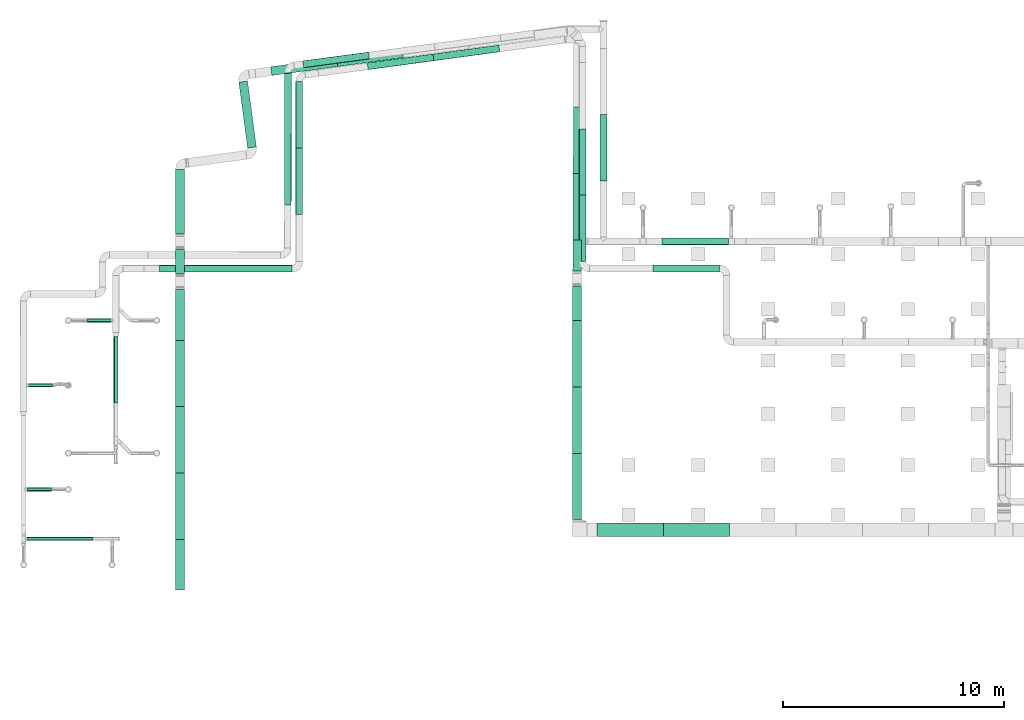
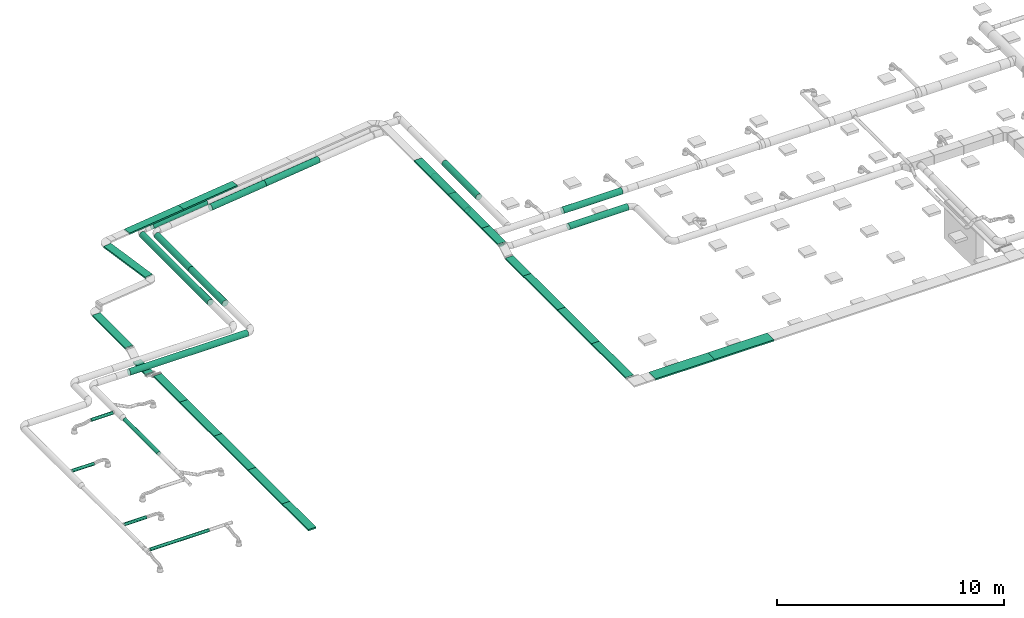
# One storey, part 1 of 119: 19 distribution elements, 17 flow segments.
"""IFC2X3 building model written with IfcOpenShell, lengths in metres."""

from ifc_helpers import new_model, si_unit, direction, frame, frame_2d, origin, place, context, subcontext, project, spatial, rectangle, extrude, open_shell, surface_model, source, transform, mapped, element, save


model = new_model("IFC2X3")

# Units and contexts
model_context = context("Model", 3, precision=1e-05, world=origin(), true_north=direction((-0.4480736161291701, 0.8939966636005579)))
body_context = subcontext(model_context, "Body", "Model", "MODEL_VIEW")
ifc_project = project(units=[si_unit("LENGTHUNIT", "METRE"), si_unit("AREAUNIT", "SQUARE_METRE"), si_unit("VOLUMEUNIT", "CUBIC_METRE"), si_unit("PLANEANGLEUNIT", "RADIAN"), si_unit("THERMODYNAMICTEMPERATUREUNIT", "KELVIN"), si_unit("MASSUNIT", "GRAM", prefix="KILO"), si_unit("TIMEUNIT", "SECOND")], contexts=[model_context])

# Site, building, storey
site_placement = place(None, origin())
site = spatial("IfcSite", under=ifc_project, at=site_placement, Name="Site 1", CompositionType="ELEMENT")
building_placement = place(site_placement, origin())
building = spatial("IfcBuilding", under=site, at=building_placement, Name="Undefined", CompositionType="ELEMENT")
storey_placement = place(building_placement, frame((0.0, 0.0, 5.4)))
storey = spatial("IfcBuildingStorey", under=building, at=storey_placement, Name="R+1", CompositionType="ELEMENT", Elevation=5.4)

# Flow segments
shared_shape_1 = source(origin(), body_context, "Body", "SurfaceModel", [
    surface_model("IfcFaceBasedSurfaceModel", [(0.0, 0.04111575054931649, 0.0), (0.0, 0.0, 0.0), (3.0, 0.0, 0.0), (3.0, 0.04111575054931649, 0.0), (0.0, -0.03971476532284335, -0.010641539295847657), (3.0, -0.03971476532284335, -0.010641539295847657), (0.0, -0.0753220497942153, -0.0311994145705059), (3.0, -0.0753220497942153, -0.0311994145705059), (0.0, -0.10439527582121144, -0.060272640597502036), (3.0, -0.10439527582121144, -0.060272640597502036), (0.0, -0.12495315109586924, -0.09587992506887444), (3.0, -0.12495315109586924, -0.09587992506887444), (0.0, -0.13559469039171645, -0.13559469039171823), (3.0, -0.13559469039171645, -0.13559469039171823), (0.0, -0.135594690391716, -0.17671044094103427), (3.0, -0.135594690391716, -0.17671044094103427), (0.0, -0.1249531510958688, -0.21642520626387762), (3.0, -0.1249531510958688, -0.21642520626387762), (0.0, -0.10439527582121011, -0.2520324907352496), (3.0, -0.10439527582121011, -0.2520324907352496), (0.0, -0.07532204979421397, -0.2811057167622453), (3.0, -0.07532204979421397, -0.2811057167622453), (0.0, -0.039714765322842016, -0.3016635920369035), (3.0, -0.039714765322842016, -0.3016635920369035), (0.0, 1.776356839e-15, -0.3123051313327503), (3.0, 1.776356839e-15, -0.3123051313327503), (0.0, 0.041115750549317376, -0.31230513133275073), (3.0, 0.041115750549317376, -0.31230513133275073), (0.0, 0.08083051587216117, -0.30166359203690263), (3.0, 0.08083051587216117, -0.30166359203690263), (0.0, 0.11643780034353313, -0.28110571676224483), (3.0, 0.11643780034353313, -0.28110571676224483), (0.0, 0.14551102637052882, -0.25203249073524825), (3.0, 0.14551102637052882, -0.25203249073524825), (0.0, 0.16606890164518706, -0.2164252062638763), (3.0, 0.16606890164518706, -0.2164252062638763), (0.0, 0.17671044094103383, -0.1767104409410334), (3.0, 0.17671044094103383, -0.1767104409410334), (0.0, 0.17671044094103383, -0.1355946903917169), (3.0, 0.17671044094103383, -0.1355946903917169), (0.0, 0.16606890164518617, -0.09587992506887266), (3.0, 0.16606890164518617, -0.09587992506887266), (0.0, 0.14551102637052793, -0.06027264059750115), (3.0, 0.14551102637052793, -0.06027264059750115), (0.0, 0.1164378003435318, -0.031199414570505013), (3.0, 0.1164378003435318, -0.031199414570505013), (0.0, 0.08083051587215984, -0.010641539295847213), (3.0, 0.08083051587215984, -0.010641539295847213)], [open_shell([[[0, 1, 2, 3]], [[1, 4, 5, 2]], [[4, 6, 7, 5]], [[6, 8, 9, 7]], [[8, 10, 11, 9]], [[10, 12, 13, 11]], [[12, 14, 15, 13]], [[14, 16, 17, 15]], [[16, 18, 19, 17]], [[18, 20, 21, 19]], [[20, 22, 23, 21]], [[22, 24, 25, 23]], [[24, 26, 27, 25]], [[26, 28, 29, 27]], [[28, 30, 31, 29]], [[30, 32, 33, 31]], [[32, 34, 35, 33]], [[34, 36, 37, 35]], [[36, 38, 39, 37]], [[38, 40, 41, 39]], [[40, 42, 43, 41]], [[42, 44, 45, 43]], [[44, 46, 47, 45]], [[46, 0, 3, 47]]])]),
])
flow_segment_1_placement = place(storey_placement, origin())
element("IfcFlowSegment", 1, at=flow_segment_1_placement, inside=storey, Name="Tube", ObjectType="Tube", context=body_context, shape_type="MappedRepresentation", body=[
    mapped(shared_shape_1, transform((34.163289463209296, 20.54514033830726, 2.902133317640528), x_axis=(-1.0, 0.0, 0.0), y_axis=(7.266545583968e-12, -0.9914448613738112, 0.13052619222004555), z_axis=(0.0, 0.13052619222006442, 0.9914448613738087))),
])
flow_segment_2_placement = place(storey_placement, origin())
element("IfcFlowSegment", 2, at=flow_segment_2_placement, inside=storey, Name="Tube", ObjectType="Tube", context=body_context, shape_type="MappedRepresentation", body=[
    mapped(shared_shape_1, transform((17.89738901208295, 28.94529813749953, 2.902133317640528), x_axis=(-0.9912155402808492, -0.13225639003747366, 0.0), y_axis=(0.13112491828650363, -0.9827355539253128, 0.13052619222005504), z_axis=(-0.017262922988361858, 0.12937959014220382, 0.99144486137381))),
])
flow_segment_3_placement = place(storey_placement, origin())
element("IfcFlowSegment", 3, at=flow_segment_3_placement, inside=storey, Name="Tube", ObjectType="Tube", context=body_context, shape_type="MappedRepresentation", body=[
    mapped(shared_shape_1, transform((28.544597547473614, 23.232500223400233, 2.902133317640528), x_axis=(0.0, 1.0, 0.0), y_axis=(-0.9914448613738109, 0.0, 0.1305261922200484), z_axis=(0.1305261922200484, 0.0, 0.9914448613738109))),
])
flow_segment_4_placement = place(storey_placement, origin())
element("IfcFlowSegment", 4, at=flow_segment_4_placement, inside=storey, Name="Tube", ObjectType="Tube", context=body_context, shape_type="MappedRepresentation", body=[
    mapped(shared_shape_1, transform((33.7562773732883, 19.317394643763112, 2.9271333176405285), x_axis=(-1.0, 0.0, 0.0), y_axis=(7.266545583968e-12, -0.9914448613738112, 0.13052619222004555), z_axis=(0.0, 0.13052619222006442, 0.9914448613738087))),
])
flow_segment_5_placement = place(storey_placement, origin())
element("IfcFlowSegment", 5, at=flow_segment_5_placement, inside=storey, Name="Tube", ObjectType="Tube", context=body_context, shape_type="MappedRepresentation", body=[
    mapped(shared_shape_1, transform((27.60605237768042, 19.591630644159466, 2.9271333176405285), x_axis=(0.0, 1.0, 0.0), y_axis=(-0.9914448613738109, 0.0, 0.1305261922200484), z_axis=(0.1305261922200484, 0.0, 0.9914448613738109))),
])
flow_segment_6_placement = place(storey_placement, origin())
element("IfcFlowSegment", 6, at=flow_segment_6_placement, inside=storey, Name="Tube", ObjectType="Tube", context=body_context, shape_type="MappedRepresentation", body=[
    mapped(shared_shape_1, transform((27.60605237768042, 22.591630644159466, 2.9271333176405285), x_axis=(0.0, 1.0, 0.0), y_axis=(-0.9914448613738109, 0.0, 0.1305261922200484), z_axis=(0.1305261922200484, 0.0, 0.9914448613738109))),
])
flow_segment_7_placement = place(storey_placement, origin())
element("IfcFlowSegment", 7, at=flow_segment_7_placement, inside=storey, Name="Tube", ObjectType="Tube", context=body_context, shape_type="MappedRepresentation", body=[
    mapped(shared_shape_1, transform((23.788335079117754, 29.262743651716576, 2.9271333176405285), x_axis=(-0.9909831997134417, -0.13398618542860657, 0.0), y_axis=(0.13283991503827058, -0.9825052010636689, 0.13052619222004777), z_axis=(-0.017488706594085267, 0.12934926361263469, 0.991444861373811))),
])
flow_segment_8_placement = place(storey_placement, origin())
element("IfcFlowSegment", 8, at=flow_segment_8_placement, inside=storey, Name="Tube", ObjectType="Tube", context=body_context, shape_type="MappedRepresentation", body=[
    mapped(shared_shape_1, transform((20.815385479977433, 28.86078509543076, 2.9271333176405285), x_axis=(-0.9909831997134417, -0.13398618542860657, 0.0), y_axis=(0.13283991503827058, -0.9825052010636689, 0.13052619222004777), z_axis=(-0.017488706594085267, 0.12934926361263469, 0.991444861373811))),
])
flow_segment_9_placement = place(storey_placement, origin())
element("IfcFlowSegment", 9, at=flow_segment_9_placement, inside=storey, Name="Tube", ObjectType="Tube", context=body_context, shape_type="MappedRepresentation", body=[
    mapped(shared_shape_1, transform((14.709022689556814, 27.724272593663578, 2.9271333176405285), x_axis=(0.0, -1.0, 0.0), y_axis=(0.9914448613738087, 0.0, 0.13052619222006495), z_axis=(-0.13052619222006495, 0.0, 0.9914448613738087))),
])
flow_segment_10_placement = place(storey_placement, origin())
element("IfcFlowSegment", 10, at=flow_segment_10_placement, inside=storey, Name="Tube", ObjectType="Tube", context=body_context, shape_type="MappedRepresentation", body=[
    mapped(shared_shape_1, transform((14.709022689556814, 24.724272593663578, 2.9271333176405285), x_axis=(0.0, -1.0, 0.0), y_axis=(0.9914448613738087, 0.0, 0.13052619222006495), z_axis=(-0.13052619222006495, 0.0, 0.9914448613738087))),
])
shared_shape_2 = source(origin(), body_context, "Body", "SurfaceModel", [
    surface_model("IfcFaceBasedSurfaceModel", [(0.0, 0.02610523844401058, 0.0), (0.0, 0.0, 0.0), (3.0, 0.0, 0.0), (3.0, 0.026105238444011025, 0.0), (0.0, -0.025215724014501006, -0.006756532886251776), (3.0, -0.02521572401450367, -0.006756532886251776), (0.0, -0.04782352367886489, -0.019809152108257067), (3.0, -0.04782352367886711, -0.019809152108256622), (0.0, -0.066282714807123, -0.038268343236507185), (3.0, -0.06628271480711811, -0.03826834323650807), (0.0, -0.07933533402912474, -0.06087614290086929), (3.0, -0.0793353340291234, -0.060876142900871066), (0.0, -0.08609186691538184, -0.08609186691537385), (3.0, -0.08609186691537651, -0.08609186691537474), (0.0, -0.08609186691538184, -0.11219710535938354), (3.0, -0.08609186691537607, -0.11219710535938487), (0.0, -0.07933533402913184, -0.1374128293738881), (3.0, -0.0793353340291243, -0.137412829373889), (0.0, -0.066282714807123, -0.16002062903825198), (3.0, -0.06628271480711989, -0.16002062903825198), (0.0, -0.04782352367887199, -0.17847982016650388), (3.0, -0.04782352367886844, -0.17847982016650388), (0.0, -0.025215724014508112, -0.19153243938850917), (3.0, -0.025215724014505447, -0.19153243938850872), (0.0, -7.105427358e-15, -0.19828897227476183), (3.0, -8.8817842e-16, -0.1982889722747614), (0.0, 0.026105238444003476, -0.19828897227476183), (3.0, 0.026105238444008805, -0.19828897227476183), (0.0, 0.05132096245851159, -0.19153243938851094), (3.0, 0.051320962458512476, -0.1915324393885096), (0.0, 0.07392876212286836, -0.17847982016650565), (3.0, 0.07392876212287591, -0.17847982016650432), (0.0, 0.09238795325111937, -0.16002062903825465), (3.0, 0.09238795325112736, -0.16002062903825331), (0.0, 0.10544057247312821, -0.13741282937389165), (3.0, 0.1054405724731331, -0.13741282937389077), (0.0, 0.11219710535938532, -0.11219710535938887), (3.0, 0.11219710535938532, -0.11219710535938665), (0.0, 0.11219710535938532, -0.08609186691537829), (3.0, 0.1121971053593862, -0.08609186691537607), (0.0, 0.10544057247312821, -0.06087614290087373), (3.0, 0.10544057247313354, -0.0608761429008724), (0.0, 0.09238795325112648, -0.03826834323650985), (3.0, 0.0923879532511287, -0.038268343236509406), (0.0, 0.07392876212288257, -0.019809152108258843), (3.0, 0.07392876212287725, -0.01980915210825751), (0.0, 0.05132096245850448, -0.006756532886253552), (3.0, 0.05132096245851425, -0.006756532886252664)], [open_shell([[[0, 1, 2, 3]], [[1, 4, 5, 2]], [[4, 6, 7, 5]], [[6, 8, 9, 7]], [[8, 10, 11, 9]], [[10, 12, 13, 11]], [[12, 14, 15, 13]], [[14, 16, 17, 15]], [[16, 18, 19, 17]], [[18, 20, 21, 19]], [[20, 22, 23, 21]], [[22, 24, 25, 23]], [[24, 26, 27, 25]], [[26, 28, 29, 27]], [[28, 30, 31, 29]], [[30, 32, 33, 31]], [[32, 34, 35, 33]], [[34, 36, 37, 35]], [[36, 38, 39, 37]], [[38, 40, 41, 39]], [[40, 42, 43, 41]], [[42, 44, 45, 43]], [[44, 46, 47, 45]], [[46, 0, 3, 47]]])]),
])
flow_segment_11_placement = place(storey_placement, origin())
element("IfcFlowSegment", 11, at=flow_segment_11_placement, inside=storey, Name="Tube", ObjectType="Tube", context=body_context, shape_type="MappedRepresentation", body=[
    mapped(shared_shape_2, transform((6.435780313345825, 16.200018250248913, 2.8715925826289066), x_axis=(0.0, -1.0, 0.0), y_axis=(0.9914448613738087, 0.0, 0.13052619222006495), z_axis=(-0.13052619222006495, 0.0, 0.9914448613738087))),
])
shared_shape_3 = source(origin(), body_context, "Body", "SurfaceModel", [
    surface_model("IfcFaceBasedSurfaceModel", [(0.0, 0.020884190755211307, 0.0), (0.0, 0.0, 0.0), (3.0, 0.0, 0.0), (3.0, 0.020884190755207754, -4.4408921e-16), (0.0, -0.020172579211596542, -0.005405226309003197), (3.0, -0.020172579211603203, -0.005405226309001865), (0.0, -0.03825881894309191, -0.015847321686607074), (3.0, -0.03825881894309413, -0.015847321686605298), (0.0, -0.05302617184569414, -0.0306146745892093), (3.0, -0.053026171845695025, -0.030614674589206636), (0.0, -0.06346826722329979, -0.04870091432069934), (3.0, -0.06346826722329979, -0.04870091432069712), (0.0, -0.06887349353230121, -0.06887349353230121), (3.0, -0.0688734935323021, -0.06887349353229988), (0.0, -0.06887349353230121, -0.08975768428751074), (3.0, -0.0688734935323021, -0.08975768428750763), (0.0, -0.06346826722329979, -0.10993026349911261), (3.0, -0.06346826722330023, -0.10993026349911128), (0.0, -0.05302617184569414, -0.12801650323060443), (3.0, -0.0530261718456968, -0.12801650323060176), (0.0, -0.038258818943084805, -0.14278385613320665), (3.0, -0.03825881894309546, -0.1427838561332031), (0.0, -0.020172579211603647, -0.15322595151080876), (3.0, -0.020172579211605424, -0.15322595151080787), (0.0, 7.105427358e-15, -0.15863117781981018), (3.0, -2.664535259e-15, -0.15863117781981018), (0.0, 0.020884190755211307, -0.15863117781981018), (3.0, 0.020884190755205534, -0.15863117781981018), (0.0, 0.04105676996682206, -0.15322595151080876), (3.0, 0.04105676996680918, -0.1532259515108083), (0.0, 0.05914300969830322, -0.1427838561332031), (3.0, 0.059143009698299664, -0.14278385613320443), (0.0, 0.07391036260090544, -0.12801650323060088), (3.0, 0.073910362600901, -0.12801650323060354), (0.0, 0.0843524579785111, -0.10993026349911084), (3.0, 0.08435245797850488, -0.10993026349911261), (0.0, 0.08975768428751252, -0.08975768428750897), (3.0, 0.08975768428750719, -0.08975768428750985), (0.0, 0.08975768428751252, -0.06887349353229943), (3.0, 0.08975768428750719, -0.0688734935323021), (0.0, 0.0843524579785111, -0.048700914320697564), (3.0, 0.08435245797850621, -0.048700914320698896), (0.0, 0.07391036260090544, -0.030614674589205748), (3.0, 0.07391036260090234, -0.03061467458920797), (0.0, 0.05914300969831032, -0.015847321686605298), (3.0, 0.05914300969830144, -0.015847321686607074), (0.0, 0.04105676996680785, -0.005405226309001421), (3.0, 0.041056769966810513, -0.005405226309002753)], [open_shell([[[0, 1, 2, 3]], [[1, 4, 5, 2]], [[4, 6, 7, 5]], [[6, 8, 9, 7]], [[8, 10, 11, 9]], [[10, 12, 13, 11]], [[12, 14, 15, 13]], [[14, 16, 17, 15]], [[16, 18, 19, 17]], [[18, 20, 21, 19]], [[20, 22, 23, 21]], [[22, 24, 25, 23]], [[24, 26, 27, 25]], [[26, 28, 29, 27]], [[28, 30, 31, 29]], [[30, 32, 33, 31]], [[32, 34, 35, 33]], [[34, 36, 37, 35]], [[36, 38, 39, 37]], [[38, 40, 41, 39]], [[40, 42, 43, 41]], [[42, 44, 45, 43]], [[44, 46, 47, 45]], [[46, 0, 3, 47]]])]),
])
flow_segment_12_placement = place(storey_placement, origin())
element("IfcFlowSegment", 12, at=flow_segment_12_placement, inside=storey, Name="Tube", ObjectType="Tube", context=body_context, shape_type="MappedRepresentation", body=[
    mapped(shared_shape_3, transform((2.4392387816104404, 7.030651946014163, 2.8272740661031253), x_axis=(1.0, 0.0, 0.0), y_axis=(0.0, 0.9914448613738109, 0.1305261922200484), z_axis=(0.0, -0.1305261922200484, 0.9914448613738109))),
])
shared_shape_4 = source(origin(), body_context, "Body", "SurfaceModel", [
    surface_model("IfcFaceBasedSurfaceModel", [(0.0, 0.020884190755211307, 0.0), (0.0, 0.0, 0.0), (1.1058475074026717, 0.0, 0.0), (1.1058475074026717, 0.020884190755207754, 0.0), (0.0, -0.020172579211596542, -0.005405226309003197), (1.1058475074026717, -0.020172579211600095, -0.005405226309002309), (0.0, -0.03825881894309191, -0.015847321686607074), (1.1058475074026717, -0.03825881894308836, -0.015847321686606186), (0.0, -0.05302617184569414, -0.0306146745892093), (1.1058475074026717, -0.05302617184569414, -0.030614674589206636), (0.0, -0.06346826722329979, -0.04870091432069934), (1.1058475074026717, -0.06346826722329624, -0.048700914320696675), (0.0, -0.06887349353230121, -0.06887349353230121), (1.1058475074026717, -0.06887349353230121, -0.06887349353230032), (0.0, -0.06887349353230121, -0.08975768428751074), (1.1058475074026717, -0.06887349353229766, -0.08975768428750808), (0.0, -0.06346826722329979, -0.10993026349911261), (1.1058475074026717, -0.06346826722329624, -0.10993026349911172), (0.0, -0.05302617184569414, -0.12801650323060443), (1.1058475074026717, -0.053026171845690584, -0.12801650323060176), (0.0, -0.038258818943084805, -0.14278385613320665), (1.1058475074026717, -0.03825881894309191, -0.142783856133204), (0.0, -0.020172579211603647, -0.15322595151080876), (1.1058475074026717, -0.020172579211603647, -0.15322595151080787), (0.0, 7.105427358e-15, -0.15863117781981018), (1.1058475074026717, 0.0, -0.1586311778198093), (0.0, 0.020884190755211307, -0.15863117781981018), (1.1058475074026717, 0.020884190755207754, -0.1586311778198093), (0.0, 0.04105676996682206, -0.15322595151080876), (1.1058475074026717, 0.0410567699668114, -0.15322595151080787), (0.0, 0.05914300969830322, -0.1427838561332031), (1.1058475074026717, 0.05914300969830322, -0.1427838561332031), (0.0, 0.07391036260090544, -0.12801650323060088), (1.1058475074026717, 0.07391036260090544, -0.12801650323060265), (0.0, 0.0843524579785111, -0.10993026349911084), (1.1058475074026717, 0.08435245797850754, -0.10993026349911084), (0.0, 0.08975768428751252, -0.08975768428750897), (1.1058475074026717, 0.08975768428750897, -0.08975768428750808), (0.0, 0.08975768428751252, -0.06887349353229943), (1.1058475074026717, 0.08975768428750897, -0.06887349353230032), (0.0, 0.0843524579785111, -0.048700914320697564), (1.1058475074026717, 0.08435245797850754, -0.048700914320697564), (0.0, 0.07391036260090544, -0.030614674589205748), (1.1058475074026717, 0.07391036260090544, -0.030614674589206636), (0.0, 0.05914300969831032, -0.015847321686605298), (1.1058475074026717, 0.05914300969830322, -0.015847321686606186), (0.0, 0.04105676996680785, -0.005405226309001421), (1.1058475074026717, 0.0410567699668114, -0.005405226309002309)], [open_shell([[[0, 1, 2, 3]], [[1, 4, 5, 2]], [[4, 6, 7, 5]], [[6, 8, 9, 7]], [[8, 10, 11, 9]], [[10, 12, 13, 11]], [[12, 14, 15, 13]], [[14, 16, 17, 15]], [[16, 18, 19, 17]], [[18, 20, 21, 19]], [[20, 22, 23, 21]], [[22, 24, 25, 23]], [[24, 26, 27, 25]], [[26, 28, 29, 27]], [[28, 30, 31, 29]], [[30, 32, 33, 31]], [[32, 34, 35, 33]], [[34, 36, 37, 35]], [[36, 38, 39, 37]], [[38, 40, 41, 39]], [[40, 42, 43, 41]], [[42, 44, 45, 43]], [[44, 46, 47, 45]], [[46, 0, 3, 47]]])]),
])
flow_segment_13_placement = place(storey_placement, origin())
element("IfcFlowSegment", 13, at=flow_segment_13_placement, inside=storey, Name="Tube", ObjectType="Tube", context=body_context, shape_type="MappedRepresentation", body=[
    mapped(shared_shape_4, transform((6.254162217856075, 16.94618890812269, 2.852274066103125), x_axis=(-1.0, 0.0, 0.0), y_axis=(7.266545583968e-12, -0.9914448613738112, 0.13052619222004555), z_axis=(0.0, 0.13052619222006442, 0.9914448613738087))),
])
flow_segment_14_placement = place(storey_placement, origin())
element("IfcFlowSegment", 14, at=flow_segment_14_placement, inside=storey, Name="Tube", ObjectType="Tube", context=body_context, shape_type="MappedRepresentation", body=[
    mapped(shared_shape_4, transform((2.4954121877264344, 14.06950206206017, 2.7707055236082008), x_axis=(0.9999984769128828, -0.0017453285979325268, 0.0), y_axis=(0.0002278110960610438, 0.13052599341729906, -0.9914448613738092), z_axis=(0.0017303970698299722, 0.9914433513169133, 0.1305261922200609))),
])
flow_segment_15_placement = place(storey_placement, origin())
element("IfcFlowSegment", 15, at=flow_segment_15_placement, inside=storey, Name="Tube", ObjectType="Tube", context=body_context, shape_type="MappedRepresentation", body=[
    mapped(shared_shape_4, transform((3.541236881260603, 9.208095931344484, 2.7707055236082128), x_axis=(-1.0, 0.0, 0.0), y_axis=(9.56658874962e-13, -0.13052619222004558, -0.9914448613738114), z_axis=(7.266545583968e-12, -0.9914448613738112, 0.13052619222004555))),
])
shared_shape_5 = source(origin(), body_context, "Body", "SurfaceModel", [
    surface_model("IfcFaceBasedSurfaceModel", [(0.0, 0.04111575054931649, 0.0), (0.0, 0.0, 0.0), (6.0, 0.0, 8.8817842e-16), (6.0, 0.041115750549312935, 0.0), (0.0, -0.03971476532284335, -0.010641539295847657), (6.0, -0.039714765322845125, -0.010641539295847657), (0.0, -0.0753220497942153, -0.0311994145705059), (6.0, -0.07532204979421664, -0.0311994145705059), (0.0, -0.10439527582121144, -0.060272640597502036), (6.0, -0.10439527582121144, -0.06027264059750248), (0.0, -0.12495315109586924, -0.09587992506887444), (6.0, -0.12495315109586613, -0.09587992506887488), (0.0, -0.13559469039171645, -0.13559469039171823), (6.0, -0.1355946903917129, -0.13559469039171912), (0.0, -0.135594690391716, -0.17671044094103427), (6.0, -0.1355946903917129, -0.17671044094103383), (0.0, -0.1249531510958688, -0.21642520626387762), (6.0, -0.12495315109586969, -0.21642520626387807), (0.0, -0.10439527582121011, -0.2520324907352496), (6.0, -0.10439527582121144, -0.2520324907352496), (0.0, -0.07532204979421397, -0.2811057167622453), (6.0, -0.07532204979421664, -0.2811057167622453), (0.0, -0.039714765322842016, -0.3016635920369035), (6.0, -0.03971476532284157, -0.3016635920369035), (0.0, 1.776356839e-15, -0.3123051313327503), (6.0, 0.0, -0.3123051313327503), (0.0, 0.041115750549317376, -0.31230513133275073), (6.0, 0.04111575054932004, -0.3123051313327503), (0.0, 0.08083051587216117, -0.30166359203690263), (6.0, 0.08083051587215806, -0.30166359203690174), (0.0, 0.11643780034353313, -0.28110571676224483), (6.0, 0.11643780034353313, -0.2811057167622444), (0.0, 0.14551102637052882, -0.25203249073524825), (6.0, 0.14551102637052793, -0.2520324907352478), (0.0, 0.16606890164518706, -0.2164252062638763), (6.0, 0.16606890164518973, -0.2164252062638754), (0.0, 0.17671044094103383, -0.1767104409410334), (6.0, 0.1767104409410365, -0.17671044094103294), (0.0, 0.17671044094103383, -0.1355946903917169), (6.0, 0.1767104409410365, -0.13559469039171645), (0.0, 0.16606890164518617, -0.09587992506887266), (6.0, 0.16606890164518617, -0.09587992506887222), (0.0, 0.14551102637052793, -0.06027264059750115), (6.0, 0.14551102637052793, -0.060272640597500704), (0.0, 0.1164378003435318, -0.031199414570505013), (6.0, 0.11643780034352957, -0.031199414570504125), (0.0, 0.08083051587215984, -0.010641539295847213), (6.0, 0.08083051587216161, -0.01064153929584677)], [open_shell([[[0, 1, 2, 3]], [[1, 4, 5, 2]], [[4, 6, 7, 5]], [[6, 8, 9, 7]], [[8, 10, 11, 9]], [[10, 12, 13, 11]], [[12, 14, 15, 13]], [[14, 16, 17, 15]], [[16, 18, 19, 17]], [[18, 20, 21, 19]], [[20, 22, 23, 21]], [[22, 24, 25, 23]], [[24, 26, 27, 25]], [[26, 28, 29, 27]], [[28, 30, 31, 29]], [[30, 32, 33, 31]], [[32, 34, 35, 33]], [[34, 36, 37, 35]], [[36, 38, 39, 37]], [[38, 40, 41, 39]], [[40, 42, 43, 41]], [[42, 44, 45, 43]], [[44, 46, 47, 45]], [[46, 0, 3, 47]]])]),
])
flow_segment_16_placement = place(storey_placement, origin())
element("IfcFlowSegment", 16, at=flow_segment_16_placement, inside=storey, Name="Tube", ObjectType="Tube", context=body_context, shape_type="MappedRepresentation", body=[
    mapped(shared_shape_5, transform((14.434786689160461, 19.30769099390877, 2.9271333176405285), x_axis=(-1.0, 0.0, 0.0), y_axis=(7.266545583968e-12, -0.9914448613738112, 0.13052619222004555), z_axis=(0.0, 0.13052619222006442, 0.9914448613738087))),
])
flow_segment_17_placement = place(storey_placement, origin())
element("IfcFlowSegment", 17, at=flow_segment_17_placement, inside=storey, Name="Tube", ObjectType="Tube", context=body_context, shape_type="MappedRepresentation", body=[
    mapped(shared_shape_5, transform((14.284662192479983, 28.14141004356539, 2.597866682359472), x_axis=(-0.0017453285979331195, -0.9999984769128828, -1.48029737e-16), y_axis=(-0.9914433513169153, 0.0017303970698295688, -0.1305261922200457), z_axis=(0.13052599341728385, -0.0002278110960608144, -0.9914448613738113))),
])

# Distribution elements
distribution_element_1_placement = place(storey_placement, origin())
element("IfcDistributionElement", 18, at=distribution_element_1_placement, inside=storey, Name="Chemin(s) de câbles", ObjectType="Chemin(s) de câbles", context=body_context, shape_type="SweptSolid", body=[
    extrude(rectangle(XDim=0.6, YDim=0.08, at=frame_2d((3.552713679e-15, 0.0), x_axis=(-1.0, 0.0))), frame((34.211, 7.464, 2.79), z_axis=(-1.0, 0.0, 0.0), x_axis=(0.0, -1.0, 0.0)), (0.0, 0.0, 1.0), 3.0),
])
distribution_element_2_placement = place(storey_placement, origin())
element("IfcDistributionElement", 19, at=distribution_element_2_placement, inside=storey, Name="Chemin(s) de câbles", ObjectType="Chemin(s) de câbles", context=body_context, shape_type="SweptSolid", body=[
    extrude(rectangle(XDim=0.6, YDim=0.08, at=frame_2d((3.552713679e-15, 0.0), x_axis=(-1.0, 0.0))), frame((31.211000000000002, 7.464, 2.79), z_axis=(-1.0, 0.0, 0.0), x_axis=(0.0, -1.0, 0.0)), (0.0, 0.0, 1.0), 3.0),
])
distribution_element_3_placement = place(storey_placement, origin())
element("IfcDistributionElement", 20, at=distribution_element_3_placement, inside=storey, Name="Chemin(s) de câbles", ObjectType="Chemin(s) de câbles", context=body_context, shape_type="SweptSolid", body=[
    extrude(rectangle(XDim=0.4, YDim=0.08, at=frame_2d((3.552713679e-15, 0.0), x_axis=(-1.0, 0.0))), frame((27.317247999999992, 7.914000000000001, 2.79), z_axis=(0.0, 1.0, 0.0), x_axis=(-1.0, 0.0, 0.0)), (0.0, 0.0, 1.0), 3.0),
])
distribution_element_4_placement = place(storey_placement, origin())
element("IfcDistributionElement", 21, at=distribution_element_4_placement, inside=storey, Name="Chemin(s) de câbles", ObjectType="Chemin(s) de câbles", context=body_context, shape_type="SweptSolid", body=[
    extrude(rectangle(XDim=0.4, YDim=0.08, at=frame_2d((3.552713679e-15, 0.0), x_axis=(-1.0, 0.0))), frame((27.317247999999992, 10.914, 2.79), z_axis=(0.0, 1.0, 0.0), x_axis=(-1.0, 0.0, 0.0)), (0.0, 0.0, 1.0), 3.0),
])
distribution_element_5_placement = place(storey_placement, origin())
element("IfcDistributionElement", 22, at=distribution_element_5_placement, inside=storey, Name="Chemin(s) de câbles", ObjectType="Chemin(s) de câbles", context=body_context, shape_type="SweptSolid", body=[
    extrude(rectangle(XDim=0.4, YDim=0.08, at=frame_2d((3.552713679e-15, 0.0), x_axis=(-1.0, 0.0))), frame((27.317247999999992, 13.914, 2.79), z_axis=(0.0, 1.0, 0.0), x_axis=(-1.0, 0.0, 0.0)), (0.0, 0.0, 1.0), 3.0),
])
distribution_element_6_placement = place(storey_placement, origin())
element("IfcDistributionElement", 23, at=distribution_element_6_placement, inside=storey, Name="Chemin(s) de câbles", ObjectType="Chemin(s) de câbles", context=body_context, shape_type="SweptSolid", body=[
    extrude(rectangle(XDim=0.4, YDim=0.08, at=frame_2d((3.552713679e-15, 0.0), x_axis=(-1.0, 0.0))), frame((27.317247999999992, 16.914, 2.79), z_axis=(0.0, 1.0, 0.0), x_axis=(-1.0, 0.0, 0.0)), (0.0, 0.0, 1.0), 1.5732999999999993),
])
distribution_element_7_placement = place(storey_placement, origin())
element("IfcDistributionElement", 24, at=distribution_element_7_placement, inside=storey, Name="Chemin(s) de câbles", ObjectType="Chemin(s) de câbles", context=body_context, shape_type="SweptSolid", body=[
    extrude(rectangle(XDim=0.4, YDim=0.08, at=frame_2d((3.552713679e-15, 0.0), x_axis=(-1.0, 0.0))), frame((16.46582645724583, 28.601690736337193, 3.1249999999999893), z_axis=(-0.9908724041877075, -0.13480311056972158, 0.0), x_axis=(0.13480311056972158, -0.9908724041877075, 0.0)), (0.0, 0.0, 1.0), 3.0),
])
distribution_element_8_placement = place(storey_placement, origin())
element("IfcDistributionElement", 25, at=distribution_element_8_placement, inside=storey, Name="Chemin(s) de câbles", ObjectType="Chemin(s) de câbles", context=body_context, shape_type="SweptSolid", body=[
    extrude(rectangle(XDim=0.4, YDim=0.08, at=frame_2d((3.552713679e-15, 0.0), x_axis=(-1.0, 0.0))), frame((9.360999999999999, 16.03, 2.8325), z_axis=(0.0, -1.0, 0.0), x_axis=(1.0, 0.0, 0.0)), (0.0, 0.0, 1.0), 3.0),
])
distribution_element_9_placement = place(storey_placement, origin())
element("IfcDistributionElement", 26, at=distribution_element_9_placement, inside=storey, Name="Chemin(s) de câbles", ObjectType="Chemin(s) de câbles", context=body_context, shape_type="SweptSolid", body=[
    extrude(rectangle(XDim=0.4, YDim=0.08, at=frame_2d((3.552713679e-15, 0.0), x_axis=(-1.0, 0.0))), frame((9.360999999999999, 13.030000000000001, 2.8325), z_axis=(0.0, -1.0, 0.0), x_axis=(1.0, 0.0, 0.0)), (0.0, 0.0, 1.0), 3.0),
])
distribution_element_10_placement = place(storey_placement, origin())
element("IfcDistributionElement", 27, at=distribution_element_10_placement, inside=storey, Name="Chemin(s) de câbles", ObjectType="Chemin(s) de câbles", context=body_context, shape_type="SweptSolid", body=[
    extrude(rectangle(XDim=0.4, YDim=0.08, at=frame_2d((3.552713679e-15, 0.0), x_axis=(-1.0, 0.0))), frame((9.360999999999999, 10.03, 2.8325), z_axis=(0.0, -1.0, 0.0), x_axis=(1.0, 0.0, 0.0)), (0.0, 0.0, 1.0), 3.0),
])
distribution_element_11_placement = place(storey_placement, origin())
element("IfcDistributionElement", 28, at=distribution_element_11_placement, inside=storey, Name="Chemin(s) de câbles", ObjectType="Chemin(s) de câbles", context=body_context, shape_type="SweptSolid", body=[
    extrude(rectangle(XDim=0.4, YDim=0.08, at=frame_2d((3.552713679e-15, 0.0), x_axis=(-1.0, 0.0))), frame((9.360999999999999, 7.03, 2.8325), z_axis=(0.0, -1.0, 0.0), x_axis=(1.0, 0.0, 0.0)), (0.0, 0.0, 1.0), 2.291),
])
distribution_element_12_placement = place(storey_placement, origin())
element("IfcDistributionElement", 29, at=distribution_element_12_placement, inside=storey, Name="Chemin(s) de câbles", ObjectType="Chemin(s) de câbles", context=body_context, shape_type="SweptSolid", body=[
    extrude(rectangle(XDim=0.4, YDim=0.08, at=frame_2d((3.552713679e-15, 0.0), x_axis=(-1.0, 0.0))), frame((16.46582645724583, 28.601690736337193, 3.1249999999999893), z_axis=(0.9908724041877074, 0.13480311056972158, 0.0), x_axis=(0.13480311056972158, -0.9908724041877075, 0.0)), (0.0, 0.0, 1.0), 3.0),
])
distribution_element_13_placement = place(storey_placement, origin())
element("IfcDistributionElement", 30, at=distribution_element_13_placement, inside=storey, Name="Chemin(s) de câbles", ObjectType="Chemin(s) de câbles", context=body_context, shape_type="SweptSolid", body=[
    extrude(rectangle(XDim=0.4, YDim=0.08, at=frame_2d((3.552713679e-15, 0.0), x_axis=(-1.0, 0.0))), frame((27.34991946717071, 26.57332573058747, 3.12499999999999), z_axis=(-0.004411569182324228, -0.9999902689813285, 1.21272862e-16), x_axis=(-0.9999902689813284, 0.004411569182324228, -1.7043789e-17)), (0.0, 0.0, 1.0), 3.0),
])
distribution_element_14_placement = place(storey_placement, origin())
element("IfcDistributionElement", 31, at=distribution_element_14_placement, inside=storey, Name="Chemin(s) de câbles", ObjectType="Chemin(s) de câbles", context=body_context, shape_type="SweptSolid", body=[
    extrude(rectangle(XDim=0.4, YDim=0.08, at=frame_2d((3.552713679e-15, 0.0), x_axis=(-1.0, 0.0))), frame((27.33668475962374, 23.573354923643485, 3.1249999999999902), z_axis=(-0.004411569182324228, -0.9999902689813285, 1.21272862e-16), x_axis=(-0.9999902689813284, 0.004411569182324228, -1.7043789e-17)), (0.0, 0.0, 1.0), 3.0),
])
distribution_element_15_placement = place(storey_placement, origin())
element("IfcDistributionElement", 32, at=distribution_element_15_placement, inside=storey, Name="Chemin(s) de câbles", ObjectType="Chemin(s) de câbles", context=body_context, shape_type="SweptSolid", body=[
    extrude(rectangle(XDim=0.4, YDim=0.08, at=frame_2d((3.552713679e-15, 0.0), x_axis=(-1.0, 0.0))), frame((9.360999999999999, 16.03, 2.8325), z_axis=(0.0, 1.0, 0.0), x_axis=(-1.0, 0.0, 0.0)), (0.0, 0.0, 1.0), 2.318880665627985),
])
distribution_element_16_placement = place(storey_placement, origin())
element("IfcDistributionElement", 33, at=distribution_element_16_placement, inside=storey, Name="Chemin(s) de câbles", ObjectType="Chemin(s) de câbles", context=body_context, shape_type="SweptSolid", body=[
    extrude(rectangle(XDim=0.4, YDim=0.08, at=frame_2d((3.552713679e-15, 0.0), x_axis=(-1.0, 0.0))), frame((12.219116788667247, 27.72271573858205, 3.1249999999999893), z_axis=(0.13225629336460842, -0.9912155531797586, 0.0), x_axis=(0.9912155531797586, 0.13225629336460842, 0.0)), (0.0, 0.0, 1.0), 3.0),
])
distribution_element_17_placement = place(storey_placement, origin())
element("IfcDistributionElement", 34, at=distribution_element_17_placement, inside=storey, Name="Chemin(s) de câbles", ObjectType="Chemin(s) de câbles", context=body_context, shape_type="SweptSolid", body=[
    extrude(rectangle(XDim=0.4, YDim=0.08, at=frame_2d((3.552713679e-15, 0.0), x_axis=(-1.0, 0.0))), frame((27.323450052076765, 20.5733841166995, 3.1249999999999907), z_axis=(-0.004411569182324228, -0.9999902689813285, 1.21272862e-16), x_axis=(-0.9999902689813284, 0.004411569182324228, -1.7043789e-17)), (0.0, 0.0, 1.0), 1.405860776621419),
])
distribution_element_18_placement = place(storey_placement, origin())
element("IfcDistributionElement", 35, at=distribution_element_18_placement, inside=storey, Name="Chemin(s) de câbles", ObjectType="Chemin(s) de câbles", context=body_context, shape_type="SweptSolid", body=[
    extrude(rectangle(XDim=0.4, YDim=0.08, at=frame_2d((3.552713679e-15, 0.0), x_axis=(-1.0, 0.0))), frame((9.36099805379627, 19.029117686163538, 2.4975000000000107), z_axis=(0.0, 1.0, 0.0), x_axis=(-1.0, 0.0, 0.0)), (0.0, 0.0, 1.0), 1.1340522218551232),
])
distribution_element_19_placement = place(storey_placement, origin())
element("IfcDistributionElement", 36, at=distribution_element_19_placement, inside=storey, Name="Chemin(s) de câbles", ObjectType="Chemin(s) de câbles", context=body_context, shape_type="SweptSolid", body=[
    extrude(rectangle(XDim=0.4, YDim=0.08, at=frame_2d((3.552713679e-15, 0.0), x_axis=(-1.0, 0.0))), frame((9.360999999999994, 23.7418622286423, 2.832500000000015), z_axis=(-9.775120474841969e-08, -0.9999999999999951, 2.26581051e-16), x_axis=(-0.999999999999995, 9.775120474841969e-08, -3.1317687e-17)), (0.0, 0.0, 1.0), 2.898455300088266),
])

save(model, "model.ifc")
